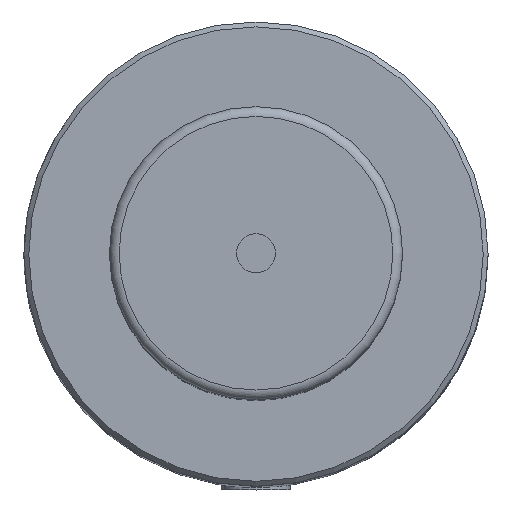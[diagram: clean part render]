
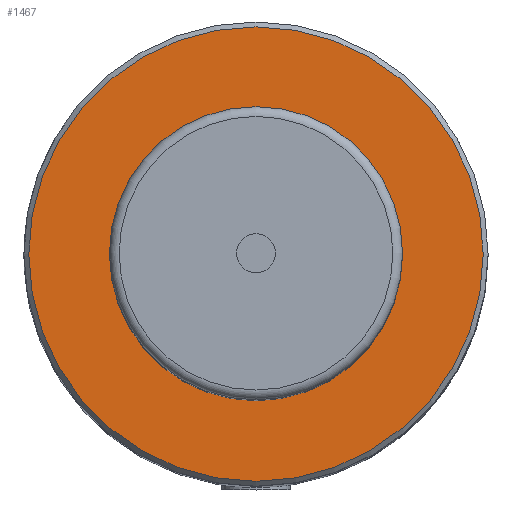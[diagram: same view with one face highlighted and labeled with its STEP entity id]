
A CAD part, top view. The second image highlights one B-rep face of the part: STEP entity #1467.
In plain terms, the highlighted planar face has unit normal (0, 0, 1).
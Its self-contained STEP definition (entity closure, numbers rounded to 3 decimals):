
#1447 = VERTEX_POINT('',#1448);
#1448 = CARTESIAN_POINT('',(46.5,0.,161.));
#1456 = EDGE_CURVE('',#1447,#1447,#1457,.T.);
#1457 = CIRCLE('',#1458,46.5);
#1458 = AXIS2_PLACEMENT_3D('',#1459,#1460,#1461);
#1459 = CARTESIAN_POINT('',(0.,0.,161.));
#1460 = DIRECTION('',(0.,0.,1.));
#1461 = DIRECTION('',(1.,0.,0.));
#1467 = ADVANCED_FACE('',(#1468),#1471,.T.);
#1468 = FACE_BOUND('',#1469,.T.);
#1469 = EDGE_LOOP('',(#1470));
#1470 = ORIENTED_EDGE('',*,*,#1456,.T.);
#1471 = PLANE('',#1472);
#1472 = AXIS2_PLACEMENT_3D('',#1473,#1474,#1475);
#1473 = CARTESIAN_POINT('',(0.,0.,161.));
#1474 = DIRECTION('',(0.,0.,1.));
#1475 = DIRECTION('',(1.,0.,0.));
